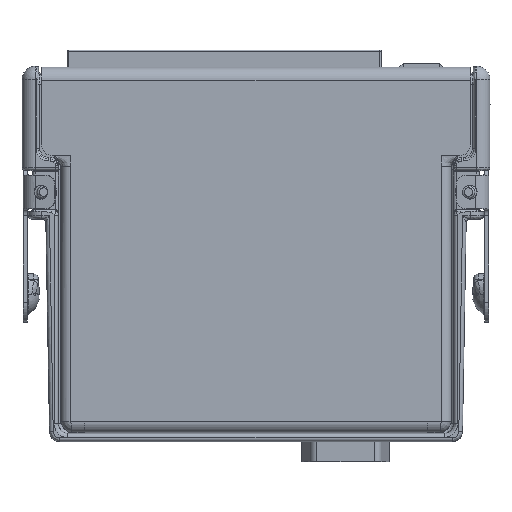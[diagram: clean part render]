
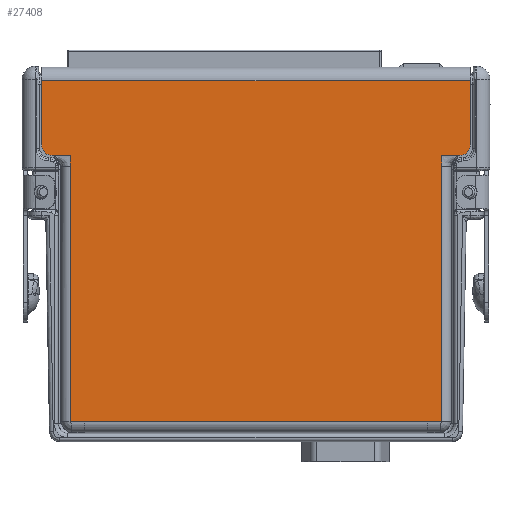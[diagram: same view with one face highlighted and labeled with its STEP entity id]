
A CAD part, left-side view. The second image highlights one B-rep face of the part: STEP entity #27408.
In plain terms, the highlighted planar face has unit normal (-1, 0, 0).
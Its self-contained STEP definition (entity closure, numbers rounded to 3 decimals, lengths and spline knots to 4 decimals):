
#724=DIRECTION('',(0.,-1.,0.));
#725=VECTOR('',#724,2.543);
#726=CARTESIAN_POINT('',(-0.4475,1.2715,0.146));
#727=LINE('',#726,#725);
#736=DIRECTION('',(0.,0.,-1.));
#737=VECTOR('',#736,0.476);
#738=CARTESIAN_POINT('',(-0.4475,1.5895,2.676));
#739=LINE('',#738,#737);
#740=DIRECTION('',(0.,0.,1.));
#741=VECTOR('',#740,0.476);
#742=CARTESIAN_POINT('',(-0.4475,-1.5895,2.2));
#743=LINE('',#742,#741);
#744=DIRECTION('',(0.,0.,1.));
#745=VECTOR('',#744,0.079);
#746=CARTESIAN_POINT('',(-0.4475,-1.3765,2.041));
#747=LINE('',#746,#745);
#748=DIRECTION('',(0.,-1.,0.));
#749=VECTOR('',#748,0.105);
#750=CARTESIAN_POINT('',(-0.4475,-1.2715,0.146));
#751=LINE('',#750,#749);
#752=DIRECTION('',(0.,-1.,0.));
#753=VECTOR('',#752,0.105);
#754=CARTESIAN_POINT('',(-0.4475,1.3765,0.146));
#755=LINE('',#754,#753);
#756=DIRECTION('',(0.,0.,1.));
#757=VECTOR('',#756,0.079);
#758=CARTESIAN_POINT('',(-0.4475,1.3765,2.041));
#759=LINE('',#758,#757);
#773=CARTESIAN_POINT('',(-0.4475,1.5095,2.2));
#774=DIRECTION('',(-1.,0.,0.));
#775=DIRECTION('',(0.,1.,0.));
#776=AXIS2_PLACEMENT_3D('',#773,#774,#775);
#778=DIRECTION('',(0.,-1.,0.));
#779=VECTOR('',#778,0.133);
#780=CARTESIAN_POINT('',(-0.4475,1.5095,2.12));
#781=LINE('',#780,#779);
#798=DIRECTION('',(0.,0.,1.));
#799=VECTOR('',#798,1.895);
#800=CARTESIAN_POINT('',(-0.4475,1.3765,0.146));
#801=LINE('',#800,#799);
#1071=DIRECTION('',(0.,0.,1.));
#1072=VECTOR('',#1071,1.895);
#1073=CARTESIAN_POINT('',(-0.4475,-1.3765,0.146));
#1074=LINE('',#1073,#1072);
#1106=DIRECTION('',(0.,-1.,0.));
#1107=VECTOR('',#1106,0.133);
#1108=CARTESIAN_POINT('',(-0.4475,-1.3765,2.12));
#1109=LINE('',#1108,#1107);
#1123=CARTESIAN_POINT('',(-0.4475,-1.5095,2.2));
#1124=DIRECTION('',(-1.,0.,0.));
#1125=DIRECTION('',(0.,0.,-1.));
#1126=AXIS2_PLACEMENT_3D('',#1123,#1124,#1125);
#1145=DIRECTION('',(0.,-1.,0.));
#1146=VECTOR('',#1145,3.179);
#1147=CARTESIAN_POINT('',(-0.4475,1.5895,2.676));
#1148=LINE('',#1147,#1146);
#26230=CARTESIAN_POINT('',(-0.4475,-1.5895,2.676));
#26231=VERTEX_POINT('',#26230);
#26232=CARTESIAN_POINT('',(-0.4475,1.5895,2.676));
#26233=VERTEX_POINT('',#26232);
#26254=CARTESIAN_POINT('',(-0.4475,1.2715,0.146));
#26255=CARTESIAN_POINT('',(-0.4475,-1.2715,0.146));
#26256=VERTEX_POINT('',#26254);
#26257=VERTEX_POINT('',#26255);
#26266=CARTESIAN_POINT('',(-0.4475,-1.3765,0.146));
#26267=VERTEX_POINT('',#26266);
#26278=CARTESIAN_POINT('',(-0.4475,1.3765,0.146));
#26279=VERTEX_POINT('',#26278);
#26327=CARTESIAN_POINT('',(-0.4475,1.5095,2.12));
#26329=VERTEX_POINT('',#26327);
#26332=CARTESIAN_POINT('',(-0.4475,1.5895,2.2));
#26333=VERTEX_POINT('',#26332);
#26335=CARTESIAN_POINT('',(-0.4475,-1.5895,2.2));
#26337=VERTEX_POINT('',#26335);
#26340=CARTESIAN_POINT('',(-0.4475,-1.5095,2.12));
#26341=VERTEX_POINT('',#26340);
#26358=CARTESIAN_POINT('',(-0.4475,-1.3765,2.041));
#26359=VERTEX_POINT('',#26358);
#26362=CARTESIAN_POINT('',(-0.4475,-1.3765,2.12));
#26363=VERTEX_POINT('',#26362);
#26370=CARTESIAN_POINT('',(-0.4475,1.3765,2.041));
#26371=CARTESIAN_POINT('',(-0.4475,1.3765,2.12));
#26372=VERTEX_POINT('',#26370);
#26373=VERTEX_POINT('',#26371);
#27375=CARTESIAN_POINT('',(-0.4475,0.,1.421));
#27376=DIRECTION('',(-1.,0.,0.));
#27377=DIRECTION('',(0.,1.,0.));
#27378=AXIS2_PLACEMENT_3D('',#27375,#27376,#27377);
#27379=PLANE('',#27378);
#27381=ORIENTED_EDGE('',*,*,#27380,.F.);
#27383=ORIENTED_EDGE('',*,*,#27382,.F.);
#27385=ORIENTED_EDGE('',*,*,#27384,.T.);
#27387=ORIENTED_EDGE('',*,*,#27386,.F.);
#27389=ORIENTED_EDGE('',*,*,#27388,.F.);
#27391=ORIENTED_EDGE('',*,*,#27390,.F.);
#27393=ORIENTED_EDGE('',*,*,#27392,.F.);
#27395=ORIENTED_EDGE('',*,*,#27394,.F.);
#27396=ORIENTED_EDGE('',*,*,#27365,.F.);
#27397=ORIENTED_EDGE('',*,*,#27340,.F.);
#27399=ORIENTED_EDGE('',*,*,#27398,.F.);
#27401=ORIENTED_EDGE('',*,*,#27400,.T.);
#27403=ORIENTED_EDGE('',*,*,#27402,.T.);
#27405=ORIENTED_EDGE('',*,*,#27404,.F.);
#27406=EDGE_LOOP('',(#27381,#27383,#27385,#27387,#27389,#27391,#27393,#27395,
#27396,#27397,#27399,#27401,#27403,#27405));
#27407=FACE_OUTER_BOUND('',#27406,.F.);
#27408=ADVANCED_FACE('',(#27407),#27379,.T.);
#777=CIRCLE('',#776,0.08);
#1127=CIRCLE('',#1126,0.08);
#27340=EDGE_CURVE('',#26256,#26257,#727,.T.);
#27365=EDGE_CURVE('',#26257,#26267,#751,.T.);
#27380=EDGE_CURVE('',#26333,#26329,#777,.T.);
#27382=EDGE_CURVE('',#26233,#26333,#739,.T.);
#27384=EDGE_CURVE('',#26233,#26231,#1148,.T.);
#27386=EDGE_CURVE('',#26337,#26231,#743,.T.);
#27388=EDGE_CURVE('',#26341,#26337,#1127,.T.);
#27390=EDGE_CURVE('',#26363,#26341,#1109,.T.);
#27392=EDGE_CURVE('',#26359,#26363,#747,.T.);
#27394=EDGE_CURVE('',#26267,#26359,#1074,.T.);
#27398=EDGE_CURVE('',#26279,#26256,#755,.T.);
#27400=EDGE_CURVE('',#26279,#26372,#801,.T.);
#27402=EDGE_CURVE('',#26372,#26373,#759,.T.);
#27404=EDGE_CURVE('',#26329,#26373,#781,.T.);
